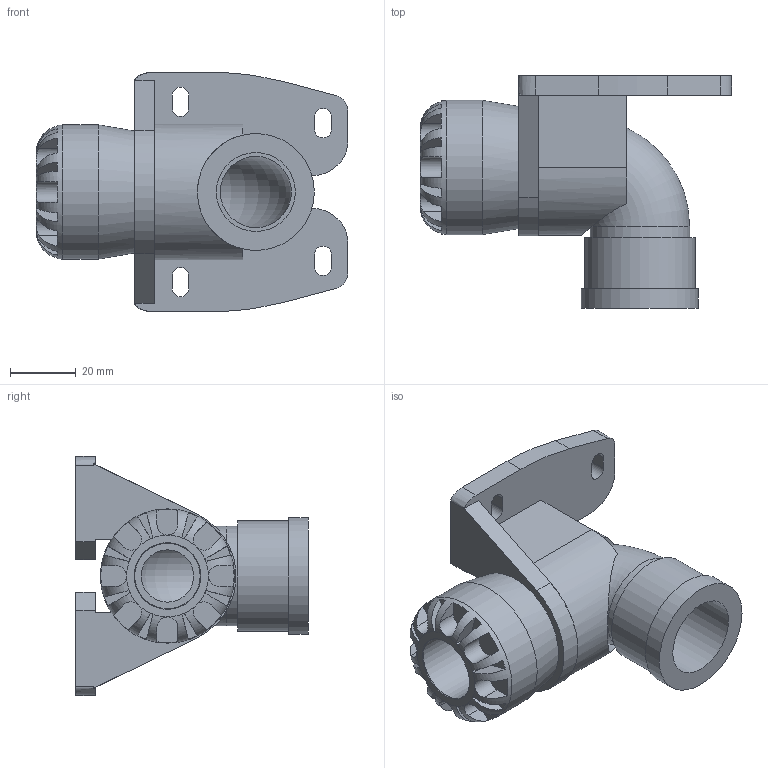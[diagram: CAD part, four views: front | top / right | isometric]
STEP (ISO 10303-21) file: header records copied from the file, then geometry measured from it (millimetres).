
FILE_DESCRIPTION(/* description */ ('PLASSON WALL PLATE ELBOW 20X3/4" SERIES 1'),/* implementation_level */ '2;1');
FILE_NAME(/* name */ 'C:\Dropbox\KIMPROJECTS-Inventor\99-16-3568-Processing\1075\107500020007.ipt.stp',/* time_stamp */ '2017-01-22T11:46:35+02:00',/* author */ ('KIM'),/* organization */ (''),/* preprocessor_version */ 'ST-DEVELOPER v15.6',/* originating_system */ 'Autodesk Inventor 2015',/* authorisation */ '');
FILE_SCHEMA (('AUTOMOTIVE_DESIGN { 1 0 10303 214 3 1 1 }'));
Length unit declared in the file: millimetre
Products named in the file (1): 107500020007
Bounding box: 95 x 71 x 73 mm (x, y, z)
Volume: 95319.3 mm3; surface area: 39077 mm2
Topology: 2 solids, 2 shells, 148 faces, 385 edges, 246 vertices
Faces by surface type: plane 96, cylinder 38, bspline 9, torus 4, cone 1
Full cylindrical faces by diameter (mm): 16 x1, 20 x1, 21.705 x1, 24.117 x1, 30.387 x1, 33.764 x1, 35.693 x1, 36.08 x1, 41 x1
Entity records: 5306 total; most frequent: CARTESIAN_POINT 1608, ORIENTED_EDGE 732, DIRECTION 716, EDGE_CURVE 366, AXIS2_PLACEMENT_3D 263, VERTEX_POINT 242, LINE 190, VECTOR 190
